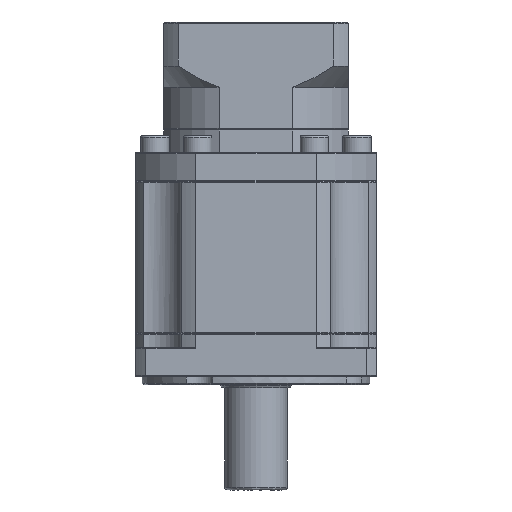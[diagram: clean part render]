
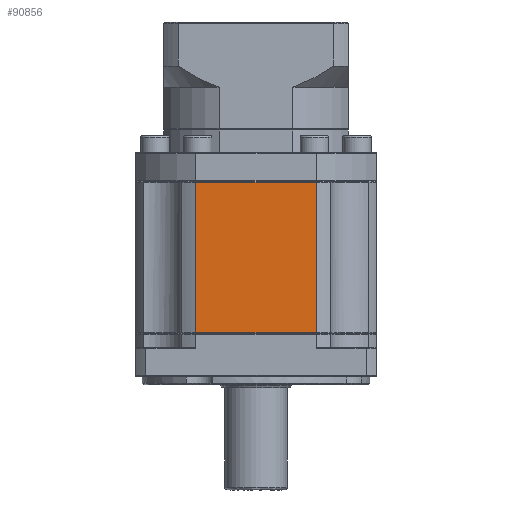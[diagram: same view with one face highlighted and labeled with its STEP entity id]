
A CAD part, front view. The second image highlights one B-rep face of the part: STEP entity #90856.
In plain terms, the highlighted planar face has unit normal (0, -1, 0).
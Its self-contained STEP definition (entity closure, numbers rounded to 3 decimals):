
#343 = EDGE_CURVE ( 'NONE', #110388, #121295, #6998, .T. ) ;
#1663 = CARTESIAN_POINT ( 'NONE',  ( -77.581, -12.461, -4.198 ) ) ;
#2718 = VERTEX_POINT ( 'NONE', #18220 ) ;
#3100 = EDGE_CURVE ( 'NONE', #2718, #109765, #6625, .T. ) ;
#4040 = EDGE_CURVE ( 'NONE', #121295, #2718, #78188, .T. ) ;
#4928 = VECTOR ( 'NONE', #43073, 1000. ) ;
#6120 = CARTESIAN_POINT ( 'NONE',  ( -77.581, -12.461, -57.198 ) ) ;
#6625 = LINE ( 'NONE', #93690, #4928 ) ;
#6998 = LINE ( 'NONE', #70479, #112691 ) ;
#14741 = FACE_OUTER_BOUND ( 'NONE', #84621, .T. ) ;
#18220 = CARTESIAN_POINT ( 'NONE',  ( -120.008, -12.461, -57.198 ) ) ;
#31806 = CARTESIAN_POINT ( 'NONE',  ( -120.008, -12.461, -4.198 ) ) ;
#36936 = CARTESIAN_POINT ( 'NONE',  ( -77.581, -12.461, -3.948 ) ) ;
#37186 = VECTOR ( 'NONE', #97493, 1000. ) ;
#43073 = DIRECTION ( 'NONE',  ( 0., 0., 1. ) ) ;
#48314 = ORIENTED_EDGE ( 'NONE', *, *, #4040, .F. ) ;
#56644 = DIRECTION ( 'NONE',  ( -1., 0., 0. ) ) ;
#57429 = CARTESIAN_POINT ( 'NONE',  ( -77.581, -12.461, -57.198 ) ) ;
#61333 = ORIENTED_EDGE ( 'NONE', *, *, #343, .F. ) ;
#61598 = AXIS2_PLACEMENT_3D ( 'NONE', #36936, #76821, #107264 ) ;
#62768 = DIRECTION ( 'NONE',  ( 0., 0., -1. ) ) ;
#68521 = VECTOR ( 'NONE', #56644, 1000. ) ;
#70479 = CARTESIAN_POINT ( 'NONE',  ( -77.581, -12.461, -3.948 ) ) ;
#75601 = EDGE_CURVE ( 'NONE', #109765, #110388, #77262, .T. ) ;
#76821 = DIRECTION ( 'NONE',  ( 0., 1., 0. ) ) ;
#77147 = ORIENTED_EDGE ( 'NONE', *, *, #3100, .F. ) ;
#77262 = LINE ( 'NONE', #129774, #37186 ) ;
#78188 = LINE ( 'NONE', #6120, #68521 ) ;
#82816 = PLANE ( 'NONE',  #61598 ) ;
#84621 = EDGE_LOOP ( 'NONE', ( #48314, #61333, #123960, #77147 ) ) ;
#90856 = ADVANCED_FACE ( 'NONE', ( #14741 ), #82816, .F. ) ;
#93690 = CARTESIAN_POINT ( 'NONE',  ( -120.008, -12.461, -3.948 ) ) ;
#97493 = DIRECTION ( 'NONE',  ( 1., 0., 0. ) ) ;
#107264 = DIRECTION ( 'NONE',  ( 0., 0., 1. ) ) ;
#109765 = VERTEX_POINT ( 'NONE', #31806 ) ;
#110388 = VERTEX_POINT ( 'NONE', #1663 ) ;
#112691 = VECTOR ( 'NONE', #62768, 1000. ) ;
#121295 = VERTEX_POINT ( 'NONE', #57429 ) ;
#123960 = ORIENTED_EDGE ( 'NONE', *, *, #75601, .F. ) ;
#129774 = CARTESIAN_POINT ( 'NONE',  ( -98.795, -12.461, -4.198 ) ) ;
